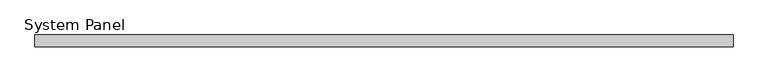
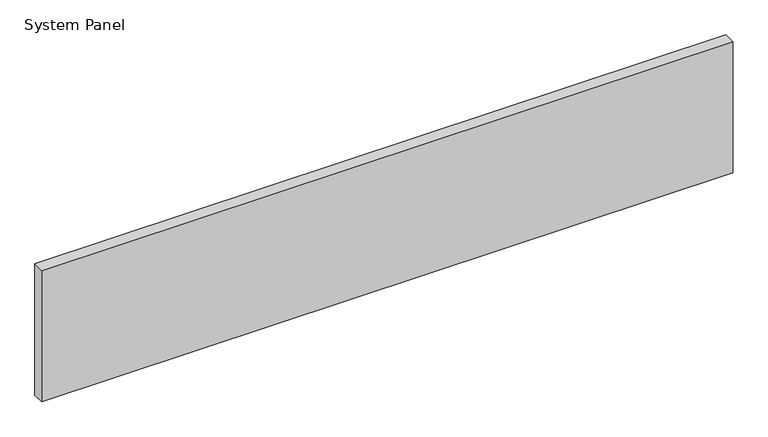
"""IFC4 building model written with IfcOpenShell, lengths in millimetres: plate geometry, System Panel : Equitilt 100mm Horizontal - Plain RHEA - MW."""

import ifcopenshell
import ifcopenshell.guid

model = None  # the IFC model being written
_history = None  # IfcOwnerHistory: only IFC2X3 demands one
_inside = {}  # id of a spatial element -> (the spatial element, [elements in it])
_under = {}  # id of a project, library or spatial element -> (it, [spatial elements below it])
_declared = {}  # id of a project -> (the project, [libraries it declares])
_typed = {}  # id of a type object -> (the type object, [elements of that type])
_made_of = {}  # id of a material, layer set ... -> (it, [elements and type objects made of it])


def new_model(schema):
    """Start an empty IFC model of exactly this schema.

    Asked for "IFC4X3", IfcOpenShell would pick the latest addendum, in which some entities
    have other attributes; the version numbers below select the first issue.
    IFC2X3 requires an IfcOwnerHistory on every rooted entity: one is made here for all.
    """
    global model, _history
    if schema == "IFC4X3":
        model = ifcopenshell.file(schema_version=(4, 3, 0, 0))
    else:
        model = ifcopenshell.file(schema=schema)
    _inside.clear()
    _under.clear()
    _declared.clear()
    _typed.clear()
    _made_of.clear()
    _history = None
    if model.schema == "IFC2X3":
        org = make("IfcOrganization", Name="unknown")
        user = make(
            "IfcPersonAndOrganization",
            ThePerson=make("IfcPerson", FamilyName="unknown"),
            TheOrganization=org,
        )
        app = make(
            "IfcApplication",
            ApplicationDeveloper=org,
            Version="unknown",
            ApplicationFullName="unknown",
            ApplicationIdentifier="unknown",
        )
        _history = make(
            "IfcOwnerHistory",
            OwningUser=user,
            OwningApplication=app,
            ChangeAction="ADDED",
            CreationDate=0,
        )
    return model


def make(cls, **values):
    """One entity of the class cls with the attributes given. An attribute that is None is left unset."""
    return model.create_entity(
        cls, **{name: value for name, value in values.items() if value is not None}
    )


def rooted(cls, **values):
    """An entity with a GlobalId (a new one), such as an element, a storey or a relation."""
    return make(cls, GlobalId=ifcopenshell.guid.new(), OwnerHistory=_history, **values)


def si_unit(unit_type, name, prefix=None):
    """IfcSIUnit, for example si_unit("LENGTHUNIT", "METRE", prefix="MILLI")."""
    return make("IfcSIUnit", UnitType=unit_type, Prefix=prefix, Name=name)


def assignment(units):
    """IfcUnitAssignment: the units of a project."""
    return None if units is None else make("IfcUnitAssignment", Units=units)


def point(xyz):
    """IfcCartesianPoint."""
    return None if xyz is None else make("IfcCartesianPoint", Coordinates=xyz)


def direction(xyz):
    """IfcDirection."""
    return None if xyz is None else make("IfcDirection", DirectionRatios=xyz)


def frame(location, z_axis=None, x_axis=None):
    """IfcAxis2Placement3D, a coordinate frame: its origin and axes. An axis left out is left unset."""
    return make(
        "IfcAxis2Placement3D",
        Location=point(location),
        Axis=direction(z_axis),
        RefDirection=direction(x_axis),
    )


def origin():
    """The frame at (0, 0, 0) with its axes left unset."""
    return frame((0.0, 0.0, 0.0))


def origin_with_axes():
    """The frame at (0, 0, 0) with the z axis (0, 0, 1) and the x axis (1, 0, 0) written out."""
    return frame((0.0, 0.0, 0.0), z_axis=(0.0, 0.0, 1.0), x_axis=(1.0, 0.0, 0.0))


def place(relative_to, where):
    """IfcLocalPlacement: puts the frame where relative to a parent placement (None: the world)."""
    return make(
        "IfcLocalPlacement", PlacementRelTo=relative_to, RelativePlacement=where
    )


def context(
    kind, dimensions, precision=None, world=None, true_north=None, identifier=None
):
    """IfcGeometricRepresentationContext, for example the 3D "Model" context."""
    return make(
        "IfcGeometricRepresentationContext",
        ContextIdentifier=identifier,
        ContextType=kind,
        CoordinateSpaceDimension=dimensions,
        Precision=precision,
        WorldCoordinateSystem=world,
        TrueNorth=true_north,
    )


def project(units=None, contexts=None):
    """IfcProject with its units and contexts."""
    return rooted(
        "IfcProject",
        Name="project",
        RepresentationContexts=contexts,
        UnitsInContext=assignment(units),
    )


def spatial(cls, under=None, at=None, **own):
    """A site, building, storey or space (cls), placed at a placement, below another one or the project."""
    s = rooted(cls, ObjectPlacement=at, **own)
    if under is not None:
        _under.setdefault(under.id(), (under, []))[1].append(s)
    return s


def polyline(points):
    """IfcPolyline through the points."""
    return make("IfcPolyline", Points=[point(p) for p in points])


def outline(outer, holes=None, kind="AREA"):
    """IfcArbitraryClosedProfileDef: a profile drawn as a closed curve; with holes, ...WithVoids."""
    if holes is None:
        return make("IfcArbitraryClosedProfileDef", ProfileType=kind, OuterCurve=outer)
    return make(
        "IfcArbitraryProfileDefWithVoids",
        ProfileType=kind,
        OuterCurve=outer,
        InnerCurves=holes,
    )


def extrude(swept, where, along, depth):
    """IfcExtrudedAreaSolid: the profile swept, set in the frame where, extruded along a direction by depth."""
    return make(
        "IfcExtrudedAreaSolid",
        SweptArea=swept,
        Position=where,
        ExtrudedDirection=direction(along),
        Depth=depth,
    )


def shape(context_of_items, identifier, shape_type, items):
    """IfcShapeRepresentation: the items that make up one representation, for example the "Body"."""
    return make(
        "IfcShapeRepresentation",
        ContextOfItems=context_of_items,
        RepresentationIdentifier=identifier,
        RepresentationType=shape_type,
        Items=items,
    )


def source(mapping_origin, context_of_items, identifier, shape_type, items):
    """IfcRepresentationMap: a shape defined once, which mapped items show again and again."""
    return make(
        "IfcRepresentationMap",
        MappingOrigin=mapping_origin,
        MappedRepresentation=shape(context_of_items, identifier, shape_type, items),
    )


def transform(
    local_origin,
    x_axis=None,
    y_axis=None,
    z_axis=None,
    scale=None,
    scale2=None,
    scale3=None,
    uniform=True,
):
    """IfcCartesianTransformationOperator3D, or its non-uniform kind. x_axis, y_axis, z_axis: its Axis1, 2, 3."""
    if uniform:
        return make(
            "IfcCartesianTransformationOperator3D",
            Axis1=direction(x_axis),
            Axis2=direction(y_axis),
            LocalOrigin=point(local_origin),
            Scale=scale,
            Axis3=direction(z_axis),
        )
    return make(
        "IfcCartesianTransformationOperator3DnonUniform",
        Axis1=direction(x_axis),
        Axis2=direction(y_axis),
        LocalOrigin=point(local_origin),
        Scale=scale,
        Axis3=direction(z_axis),
        Scale2=scale2,
        Scale3=scale3,
    )


def mapped(mapping_source, mapping_target):
    """IfcMappedItem: shows the shape of a source again, moved by a transform."""
    return make(
        "IfcMappedItem", MappingSource=mapping_source, MappingTarget=mapping_target
    )


def made_of(thing, what):
    """Note that an element or type object is made of a material, layer set ...; save() writes the relation."""
    if what is not None:
        _made_of.setdefault(what.id(), (what, []))[1].append(thing)
    return thing


def element(
    cls,
    number,
    at=None,
    inside=None,
    cuts=None,
    type_object=None,
    material=None,
    context=None,
    identifier="Body",
    shape_type=None,
    held_by="IfcProductDefinitionShape",
    body=None,
    shapes=None,
    **own,
):
    """One element of the class cls, such as IfcWall. Its Tag is "e" and its number.

    at: its placement. inside: the storey or other place that contains it. cuts: it is an
    opening in that element (IfcRelVoidsElement). A single representation is given by context,
    identifier, shape_type and body (its items); several are given by shapes. held_by: the class
    of the entity that holds the representations. save() writes the other relations.
    """
    e = rooted(cls, Tag="e%d" % number, ObjectPlacement=at, **own)
    if body is not None:
        shapes = [shape(context, identifier, shape_type, body)]
    if shapes is not None:
        e.Representation = make(held_by, Representations=shapes)
    if inside is not None:
        _inside.setdefault(inside.id(), (inside, []))[1].append(e)
    if cuts is not None:
        rooted(
            "IfcRelVoidsElement", RelatingBuildingElement=cuts, RelatedOpeningElement=e
        )
    if type_object is not None:
        _typed.setdefault(type_object.id(), (type_object, []))[1].append(e)
    return made_of(e, material)


def aggregate(whole, parts):
    """IfcRelAggregates: a whole, such as a stair, and the parts it consists of."""
    return rooted("IfcRelAggregates", RelatingObject=whole, RelatedObjects=parts)


def save(model, path):
    """Write the relations noted so far, then the file.

    IfcRelAggregates (storeys below a building ...), IfcRelContainedInSpatialStructure (elements
    in a storey), IfcRelDefinesByType, IfcRelAssociatesMaterial and IfcRelDeclares: one each for
    every whole, place, type object, material and project.
    """
    for whole, parts in _under.values():
        aggregate(whole, parts)
    for where, things in _inside.values():
        rooted(
            "IfcRelContainedInSpatialStructure",
            RelatedElements=things,
            RelatingStructure=where,
        )
    for kind, things in _typed.values():
        rooted("IfcRelDefinesByType", RelatedObjects=things, RelatingType=kind)
    for what, things in _made_of.values():
        rooted("IfcRelAssociatesMaterial", RelatedObjects=things, RelatingMaterial=what)
    for by, libraries in _declared.values():
        rooted("IfcRelDeclares", RelatingContext=by, RelatedDefinitions=libraries)
    model.write(path)


def system_panel_58bfb996(model_context):
    return source(origin(), model_context, "Body", "SweptSolid", [
        extrude(outline(polyline([(2990.0, -100.0), (-2990.0, -100.0), (-2990.0, 0.0), (2990.0, 0.0), (2990.0, -100.0)])), origin_with_axes(), (0.0, 0.0, 1.0), 1200.0),
    ])


if __name__ == "__main__":
    model = new_model("IFC4")
    model_context = context("Model", 3, world=origin())
    ifc_project = project(units=[si_unit("LENGTHUNIT", "METRE", prefix="MILLI")], contexts=[model_context])
    site = spatial("IfcSite", under=ifc_project)
    building = spatial("IfcBuilding", under=site)
    placement = place(None, origin())
    system_panel_shape = system_panel_58bfb996(model_context)
    element("IfcPlate", 1, ObjectType="System Panel : Equitilt 100mm Horizontal - Plain RHEA - MW", at=placement, inside=building, context=model_context, shape_type="MappedRepresentation", body=[
        mapped(system_panel_shape, transform((0.0, 0.0, 0.0), x_axis=(1.0, 0.0, 0.0), y_axis=(0.0, 1.0, 0.0), z_axis=(0.0, 0.0, 1.0))),
    ])
    save(model, "model.ifc")
